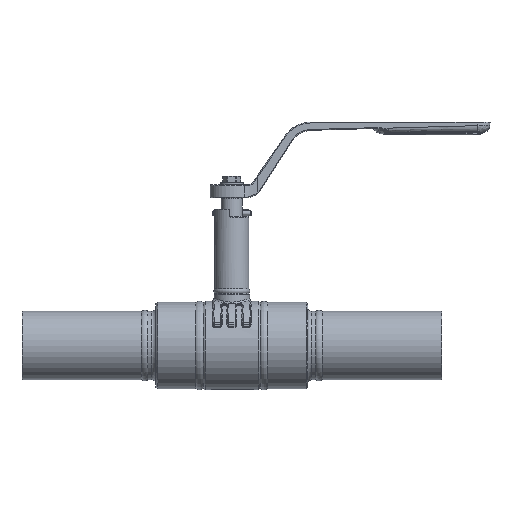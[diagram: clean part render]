
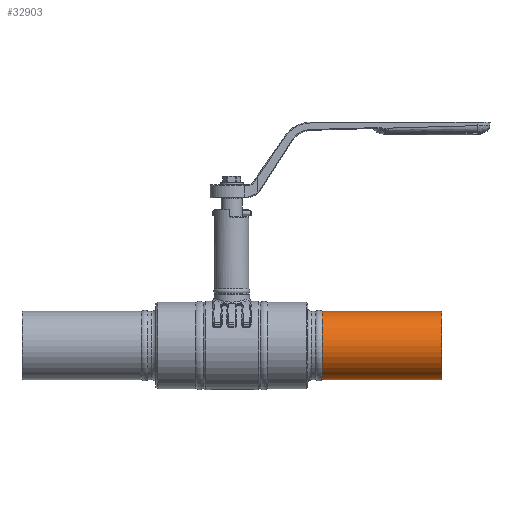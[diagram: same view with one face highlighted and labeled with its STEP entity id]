
A CAD part, front view. The second image highlights one B-rep face of the part: STEP entity #32903.
In plain terms, the highlighted cylindrical face has radius 21.2 mm (diameter 42.4 mm), a partial arc.
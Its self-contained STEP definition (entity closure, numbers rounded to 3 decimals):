
#10380=CARTESIAN_POINT('',(56.,0.,0.));
#10381=DIRECTION('',(1.,0.,0.));
#10382=DIRECTION('',(0.,0.,1.));
#10383=AXIS2_PLACEMENT_3D('',#10380,#10381,#10382);
#10390=DIRECTION('',(1.,0.,0.));
#10391=VECTOR('',#10390,74.);
#10392=CARTESIAN_POINT('',(56.,0.,-21.2));
#10393=LINE('',#10392,#10391);
#10394=DIRECTION('',(1.,0.,0.));
#10395=VECTOR('',#10394,74.);
#10396=CARTESIAN_POINT('',(56.,0.,21.2));
#10397=LINE('',#10396,#10395);
#10398=CARTESIAN_POINT('',(130.,0.,0.));
#10399=DIRECTION('',(1.,0.,0.));
#10400=DIRECTION('',(0.,0.,1.));
#10401=AXIS2_PLACEMENT_3D('',#10398,#10399,#10400);
#13997=CARTESIAN_POINT('',(130.,0.,21.2));
#13998=CARTESIAN_POINT('',(130.,0.,-21.2));
#13999=VERTEX_POINT('',#13997);
#14000=VERTEX_POINT('',#13998);
#15125=CARTESIAN_POINT('',(56.,0.,21.2));
#15126=CARTESIAN_POINT('',(56.,0.,-21.2));
#15127=VERTEX_POINT('',#15125);
#15128=VERTEX_POINT('',#15126);
#32889=CARTESIAN_POINT('',(50.2,0.,0.));
#32890=DIRECTION('',(1.,0.,0.));
#32891=DIRECTION('',(0.,0.,1.));
#32892=AXIS2_PLACEMENT_3D('',#32889,#32890,#32891);
#32893=CYLINDRICAL_SURFACE('',#32892,21.2);
#32894=ORIENTED_EDGE('',*,*,#32864,.F.);
#32896=ORIENTED_EDGE('',*,*,#32895,.T.);
#32898=ORIENTED_EDGE('',*,*,#32897,.T.);
#32900=ORIENTED_EDGE('',*,*,#32899,.F.);
#32901=EDGE_LOOP('',(#32894,#32896,#32898,#32900));
#32902=FACE_OUTER_BOUND('',#32901,.F.);
#10384=CIRCLE('',#10383,21.2);
#10402=CIRCLE('',#10401,21.2);
#32864=EDGE_CURVE('',#15127,#15128,#10384,.T.);
#32895=EDGE_CURVE('',#15127,#13999,#10397,.T.);
#32897=EDGE_CURVE('',#13999,#14000,#10402,.T.);
#32899=EDGE_CURVE('',#15128,#14000,#10393,.T.);
#32903=ADVANCED_FACE('',(#32902),#32893,.T.);
